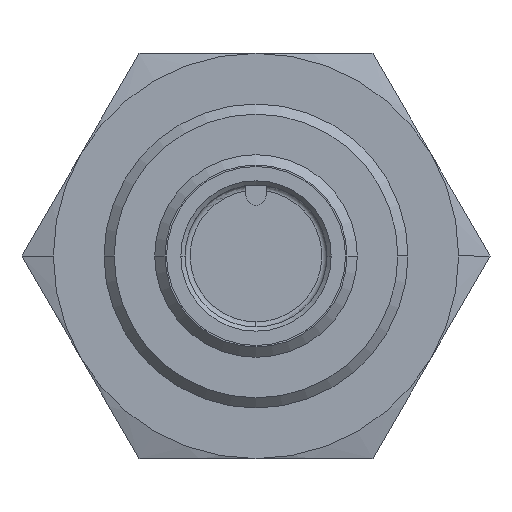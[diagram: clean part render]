
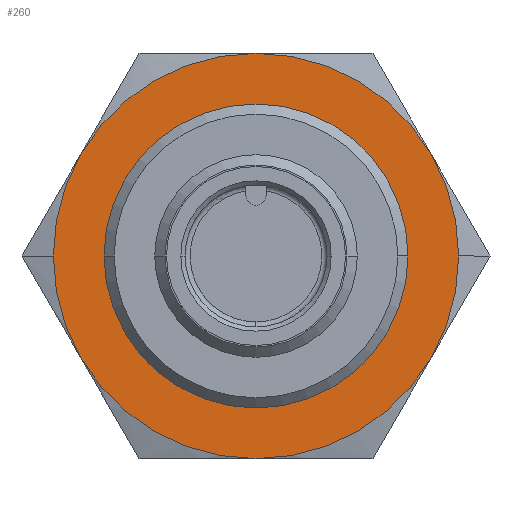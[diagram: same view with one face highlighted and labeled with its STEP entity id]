
A CAD part, left-side view. The second image highlights one B-rep face of the part: STEP entity #260.
In plain terms, the highlighted planar face has unit normal (-1, 0, 0).
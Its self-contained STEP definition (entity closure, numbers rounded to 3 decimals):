
#260 = ADVANCED_FACE( '', ( #479, #480 ), #481, .T. );
#479 = FACE_BOUND( '', #731, .T. );
#480 = FACE_OUTER_BOUND( '', #732, .T. );
#481 = PLANE( '', #733 );
#731 = EDGE_LOOP( '', ( #1449, #1450 ) );
#732 = EDGE_LOOP( '', ( #1451, #1452, #1453, #1454, #1455, #1456, #1457, #1458 ) );
#733 = AXIS2_PLACEMENT_3D( '', #1459, #1460, #1461 );
#1449 = ORIENTED_EDGE( '', *, *, #1877, .T. );
#1450 = ORIENTED_EDGE( '', *, *, #1815, .T. );
#1451 = ORIENTED_EDGE( '', *, *, #1873, .T. );
#1452 = ORIENTED_EDGE( '', *, *, #1826, .T. );
#1453 = ORIENTED_EDGE( '', *, *, #1868, .T. );
#1454 = ORIENTED_EDGE( '', *, *, #1869, .T. );
#1455 = ORIENTED_EDGE( '', *, *, #1828, .T. );
#1456 = ORIENTED_EDGE( '', *, *, #1870, .T. );
#1457 = ORIENTED_EDGE( '', *, *, #1871, .T. );
#1458 = ORIENTED_EDGE( '', *, *, #1872, .T. );
#1459 = CARTESIAN_POINT( '', ( 38.5, 6., 0. ) );
#1460 = DIRECTION( '', ( -1., 0., 0. ) );
#1461 = DIRECTION( '', ( 0., 1., 0. ) );
#1815 = EDGE_CURVE( '', #2163, #2160, #2164, .T. );
#1826 = EDGE_CURVE( '', #2179, #2181, #2183, .T. );
#1828 = EDGE_CURVE( '', #2187, #2184, #2188, .T. );
#1868 = EDGE_CURVE( '', #2181, #2207, #2250, .T. );
#1869 = EDGE_CURVE( '', #2207, #2187, #2251, .T. );
#1870 = EDGE_CURVE( '', #2184, #2238, #2252, .T. );
#1871 = EDGE_CURVE( '', #2238, #2230, #2253, .T. );
#1872 = EDGE_CURVE( '', #2230, #2217, #2254, .T. );
#1873 = EDGE_CURVE( '', #2217, #2179, #2255, .T. );
#1877 = EDGE_CURVE( '', #2160, #2163, #2259, .T. );
#2160 = VERTEX_POINT( '', #2924 );
#2163 = VERTEX_POINT( '', #2928 );
#2164 = CIRCLE( '', #2929, 9. );
#2179 = VERTEX_POINT( '', #2949 );
#2181 = VERTEX_POINT( '', #2952 );
#2183 = CIRCLE( '', #2963, 12. );
#2184 = VERTEX_POINT( '', #2964 );
#2187 = VERTEX_POINT( '', #2968 );
#2188 = CIRCLE( '', #2969, 12. );
#2207 = VERTEX_POINT( '', #3027 );
#2217 = VERTEX_POINT( '', #3075 );
#2230 = VERTEX_POINT( '', #3152 );
#2238 = VERTEX_POINT( '', #3197 );
#2250 = CIRCLE( '', #3246, 12. );
#2251 = CIRCLE( '', #3247, 12. );
#2252 = CIRCLE( '', #3248, 12. );
#2253 = CIRCLE( '', #3249, 12. );
#2254 = CIRCLE( '', #3250, 12. );
#2255 = CIRCLE( '', #3251, 12. );
#2259 = CIRCLE( '', #3255, 9. );
#2924 = CARTESIAN_POINT( '', ( 38.5, 9., 0. ) );
#2928 = CARTESIAN_POINT( '', ( 38.5, -9., 0. ) );
#2929 = AXIS2_PLACEMENT_3D( '', #3829, #3830, #3831 );
#2949 = CARTESIAN_POINT( '', ( 38.5, 12., 0. ) );
#2952 = CARTESIAN_POINT( '', ( 38.5, 10.392, -6. ) );
#2963 = AXIS2_PLACEMENT_3D( '', #3847, #3848, #3849 );
#2964 = CARTESIAN_POINT( '', ( 38.5, -12., 0. ) );
#2968 = CARTESIAN_POINT( '', ( 38.5, -10.392, -6. ) );
#2969 = AXIS2_PLACEMENT_3D( '', #3851, #3852, #3853 );
#3027 = CARTESIAN_POINT( '', ( 38.5, 0., -12. ) );
#3075 = CARTESIAN_POINT( '', ( 38.5, 10.392, 6. ) );
#3152 = CARTESIAN_POINT( '', ( 38.5, 0., 12. ) );
#3197 = CARTESIAN_POINT( '', ( 38.5, -10.392, 6. ) );
#3246 = AXIS2_PLACEMENT_3D( '', #3886, #3887, #3888 );
#3247 = AXIS2_PLACEMENT_3D( '', #3889, #3890, #3891 );
#3248 = AXIS2_PLACEMENT_3D( '', #3892, #3893, #3894 );
#3249 = AXIS2_PLACEMENT_3D( '', #3895, #3896, #3897 );
#3250 = AXIS2_PLACEMENT_3D( '', #3898, #3899, #3900 );
#3251 = AXIS2_PLACEMENT_3D( '', #3901, #3902, #3903 );
#3255 = AXIS2_PLACEMENT_3D( '', #3913, #3914, #3915 );
#3829 = CARTESIAN_POINT( '', ( 38.5, 0., 0. ) );
#3830 = DIRECTION( '', ( 1., 0., 0. ) );
#3831 = DIRECTION( '', ( 0., 1., 0. ) );
#3847 = CARTESIAN_POINT( '', ( 38.5, 0., 0. ) );
#3848 = DIRECTION( '', ( -1., 0., 0. ) );
#3849 = DIRECTION( '', ( 0., 1., 0. ) );
#3851 = CARTESIAN_POINT( '', ( 38.5, 0., 0. ) );
#3852 = DIRECTION( '', ( -1., 0., 0. ) );
#3853 = DIRECTION( '', ( 0., 1., 0. ) );
#3886 = CARTESIAN_POINT( '', ( 38.5, 0., 0. ) );
#3887 = DIRECTION( '', ( -1., 0., 0. ) );
#3888 = DIRECTION( '', ( 0., 1., 0. ) );
#3889 = CARTESIAN_POINT( '', ( 38.5, 0., 0. ) );
#3890 = DIRECTION( '', ( -1., 0., 0. ) );
#3891 = DIRECTION( '', ( 0., 1., 0. ) );
#3892 = CARTESIAN_POINT( '', ( 38.5, 0., 0. ) );
#3893 = DIRECTION( '', ( -1., 0., 0. ) );
#3894 = DIRECTION( '', ( 0., 1., 0. ) );
#3895 = CARTESIAN_POINT( '', ( 38.5, 0., 0. ) );
#3896 = DIRECTION( '', ( -1., 0., 0. ) );
#3897 = DIRECTION( '', ( 0., 1., 0. ) );
#3898 = CARTESIAN_POINT( '', ( 38.5, 0., 0. ) );
#3899 = DIRECTION( '', ( -1., 0., 0. ) );
#3900 = DIRECTION( '', ( 0., 1., 0. ) );
#3901 = CARTESIAN_POINT( '', ( 38.5, 0., 0. ) );
#3902 = DIRECTION( '', ( -1., 0., 0. ) );
#3903 = DIRECTION( '', ( 0., 1., 0. ) );
#3913 = CARTESIAN_POINT( '', ( 38.5, 0., 0. ) );
#3914 = DIRECTION( '', ( 1., 0., 0. ) );
#3915 = DIRECTION( '', ( 0., 1., 0. ) );
